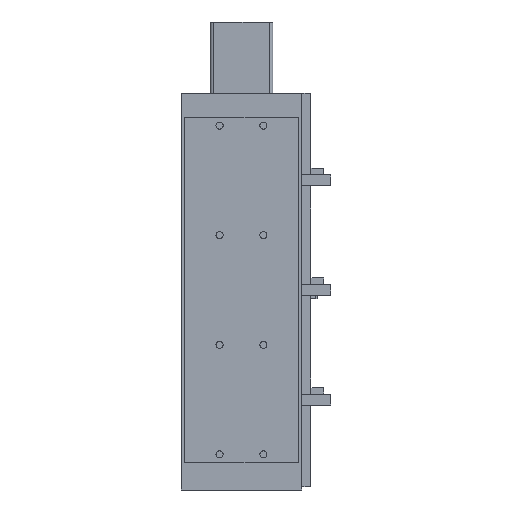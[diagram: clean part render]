
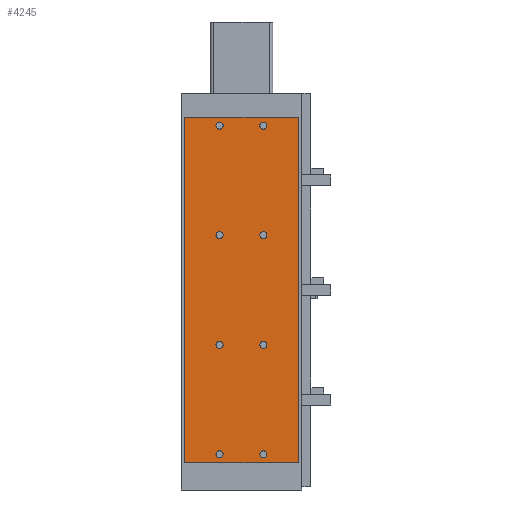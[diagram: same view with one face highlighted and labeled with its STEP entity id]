
A CAD part, front view. The second image highlights one B-rep face of the part: STEP entity #4245.
In plain terms, the highlighted planar face has unit normal (0, -1, 0).
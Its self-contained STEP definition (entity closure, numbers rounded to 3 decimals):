
#153=CARTESIAN_POINT('',(-23.25,0.,332.5));
#154=VERTEX_POINT('',#153);
#155=CARTESIAN_POINT('',(-20.,0.0,332.5));
#156=DIRECTION('',(0.0,1.0,0.0));
#157=DIRECTION('',(1.0,0.0,0.0));
#158=AXIS2_PLACEMENT_3D('',#155,#156,#157);
#159=CIRCLE('',#158,3.25);
#160=EDGE_CURVE('',#154,#154,#159,.T.);
#261=CARTESIAN_POINT('',(16.75,0.,332.5));
#262=VERTEX_POINT('',#261);
#263=CARTESIAN_POINT('',(20.,0.0,332.5));
#264=DIRECTION('',(0.0,1.0,0.0));
#265=DIRECTION('',(1.0,0.0,0.0));
#266=AXIS2_PLACEMENT_3D('',#263,#264,#265);
#267=CIRCLE('',#266,3.25);
#268=EDGE_CURVE('',#262,#262,#267,.T.);
#338=CARTESIAN_POINT('',(16.75,0.,32.5));
#339=VERTEX_POINT('',#338);
#340=CARTESIAN_POINT('',(20.,0.0,32.5));
#341=DIRECTION('',(0.0,1.0,0.0));
#342=DIRECTION('',(1.0,0.0,0.0));
#343=AXIS2_PLACEMENT_3D('',#340,#341,#342);
#344=CIRCLE('',#343,3.25);
#345=EDGE_CURVE('',#339,#339,#344,.T.);
#384=CARTESIAN_POINT('',(-23.25,0.,32.5));
#385=VERTEX_POINT('',#384);
#386=CARTESIAN_POINT('',(-20.,0.0,32.5));
#387=DIRECTION('',(0.0,1.0,0.0));
#388=DIRECTION('',(1.0,0.0,0.0));
#389=AXIS2_PLACEMENT_3D('',#386,#387,#388);
#390=CIRCLE('',#389,3.25);
#391=EDGE_CURVE('',#385,#385,#390,.T.);
#492=CARTESIAN_POINT('',(16.75,0.,232.5));
#493=VERTEX_POINT('',#492);
#494=CARTESIAN_POINT('',(20.,0.0,232.5));
#495=DIRECTION('',(0.0,1.0,0.0));
#496=DIRECTION('',(1.0,0.0,0.0));
#497=AXIS2_PLACEMENT_3D('',#494,#495,#496);
#498=CIRCLE('',#497,3.25);
#499=EDGE_CURVE('',#493,#493,#498,.T.);
#569=CARTESIAN_POINT('',(-23.25,0.,232.5));
#570=VERTEX_POINT('',#569);
#571=CARTESIAN_POINT('',(-20.,0.0,232.5));
#572=DIRECTION('',(0.0,1.0,0.0));
#573=DIRECTION('',(1.0,0.0,0.0));
#574=AXIS2_PLACEMENT_3D('',#571,#572,#573);
#575=CIRCLE('',#574,3.25);
#576=EDGE_CURVE('',#570,#570,#575,.T.);
#646=CARTESIAN_POINT('',(16.75,0.,132.5));
#647=VERTEX_POINT('',#646);
#648=CARTESIAN_POINT('',(20.,0.0,132.5));
#649=DIRECTION('',(0.0,1.0,0.0));
#650=DIRECTION('',(1.0,0.0,0.0));
#651=AXIS2_PLACEMENT_3D('',#648,#649,#650);
#652=CIRCLE('',#651,3.25);
#653=EDGE_CURVE('',#647,#647,#652,.T.);
#723=CARTESIAN_POINT('',(-23.25,0.,132.5));
#724=VERTEX_POINT('',#723);
#725=CARTESIAN_POINT('',(-20.,0.0,132.5));
#726=DIRECTION('',(0.0,1.0,0.0));
#727=DIRECTION('',(1.0,0.0,0.0));
#728=AXIS2_PLACEMENT_3D('',#725,#726,#727);
#729=CIRCLE('',#728,3.25);
#730=EDGE_CURVE('',#724,#724,#729,.T.);
#4142=CARTESIAN_POINT('',(52.,0.,25.));
#4143=VERTEX_POINT('',#4142);
#4150=CARTESIAN_POINT('',(-52.0,0.,25.));
#4151=VERTEX_POINT('',#4150);
#4152=CARTESIAN_POINT('',(-52.0,0.,25.));
#4153=DIRECTION('',(1.0,0.0,0.0));
#4154=VECTOR('',#4153,104.0);
#4155=LINE('',#4152,#4154);
#4156=EDGE_CURVE('',#4151,#4143,#4155,.T.);
#4173=CARTESIAN_POINT('',(-52.,0.,340.0));
#4174=VERTEX_POINT('',#4173);
#4175=CARTESIAN_POINT('',(-52.0,0.,25.));
#4176=DIRECTION('',(0.0,0.0,1.0));
#4177=VECTOR('',#4176,315.0);
#4178=LINE('',#4175,#4177);
#4179=EDGE_CURVE('',#4151,#4174,#4178,.T.);
#4198=CARTESIAN_POINT('',(52.0,0.,0.0));
#4199=DIRECTION('',(0.0,-1.0,0.0));
#4200=DIRECTION('',(0.0,0.0,-1.0));
#4201=AXIS2_PLACEMENT_3D('',#4198,#4199,#4200);
#4202=PLANE('',#4201);
#4203=ORIENTED_EDGE('',*,*,#4156,.T.);
#4204=CARTESIAN_POINT('',(52.,0.,340.0));
#4205=VERTEX_POINT('',#4204);
#4206=CARTESIAN_POINT('',(52.,0.,25.));
#4207=DIRECTION('',(0.0,0.0,1.0));
#4208=VECTOR('',#4207,315.0);
#4209=LINE('',#4206,#4208);
#4210=EDGE_CURVE('',#4143,#4205,#4209,.T.);
#4211=ORIENTED_EDGE('',*,*,#4210,.T.);
#4212=CARTESIAN_POINT('',(52.,0.,340.0));
#4213=DIRECTION('',(-1.0,0.0,0.0));
#4214=VECTOR('',#4213,104.);
#4215=LINE('',#4212,#4214);
#4216=EDGE_CURVE('',#4205,#4174,#4215,.T.);
#4217=ORIENTED_EDGE('',*,*,#4216,.T.);
#4218=ORIENTED_EDGE('',*,*,#4179,.F.);
#4219=EDGE_LOOP('',(#4203,#4211,#4217,#4218));
#4220=FACE_OUTER_BOUND('',#4219,.T.);
#4221=ORIENTED_EDGE('',*,*,#160,.T.);
#4222=EDGE_LOOP('',(#4221));
#4223=FACE_BOUND('',#4222,.T.);
#4224=ORIENTED_EDGE('',*,*,#268,.T.);
#4225=EDGE_LOOP('',(#4224));
#4226=FACE_BOUND('',#4225,.T.);
#4227=ORIENTED_EDGE('',*,*,#345,.T.);
#4228=EDGE_LOOP('',(#4227));
#4229=FACE_BOUND('',#4228,.T.);
#4230=ORIENTED_EDGE('',*,*,#391,.T.);
#4231=EDGE_LOOP('',(#4230));
#4232=FACE_BOUND('',#4231,.T.);
#4233=ORIENTED_EDGE('',*,*,#499,.T.);
#4234=EDGE_LOOP('',(#4233));
#4235=FACE_BOUND('',#4234,.T.);
#4236=ORIENTED_EDGE('',*,*,#576,.T.);
#4237=EDGE_LOOP('',(#4236));
#4238=FACE_BOUND('',#4237,.T.);
#4239=ORIENTED_EDGE('',*,*,#653,.T.);
#4240=EDGE_LOOP('',(#4239));
#4241=FACE_BOUND('',#4240,.T.);
#4242=ORIENTED_EDGE('',*,*,#730,.T.);
#4243=EDGE_LOOP('',(#4242));
#4244=FACE_BOUND('',#4243,.T.);
#4245=ADVANCED_FACE('',(#4220,#4223,#4226,#4229,#4232,#4235,#4238,#4241,#4244),#4202,.T.);
